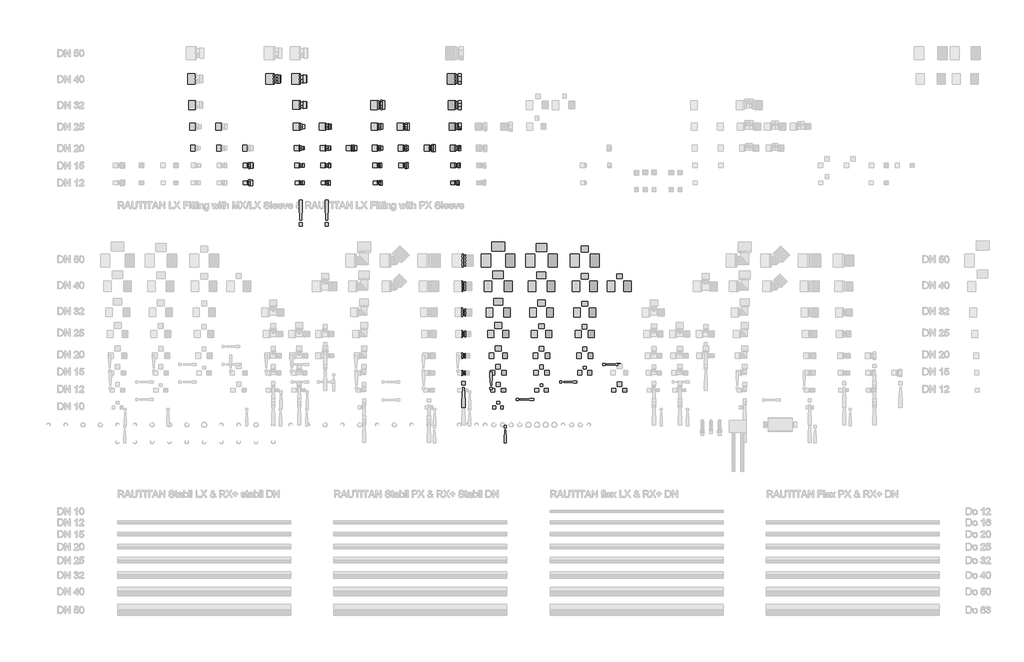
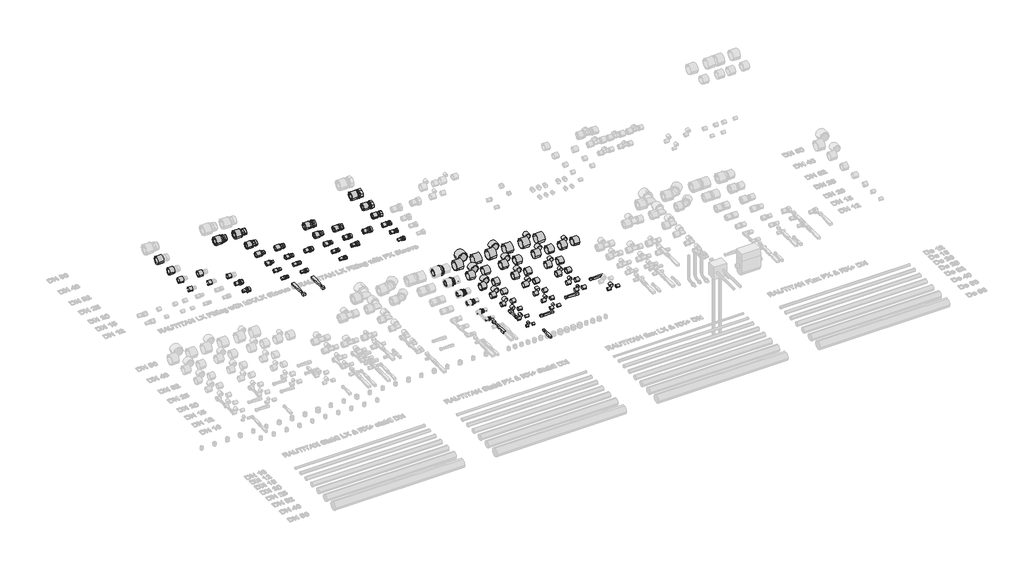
# One storey, part 4 of 18: 140 pipe fittings.
"""IFC4 building model written with IfcOpenShell, lengths in millimetres."""

from ifc_helpers import new_model, si_unit, origin, place, context, project, spatial, transform, mapped, element, save
from components import pipe_fitting_fd7b57f7, pipe_fitting_021c3694, pipe_fitting_38a4c61e, pipe_fitting_724b9a9d, dn1_749d9a03, pipe_fitting_1876d1a3, dn1_c9c9eba3, dn1_037c3912, pipe_fitting_a8fbe6ac, pipe_fitting_d8f8e9d9, pipe_fitting_02b715f6, pipe_fitting_6fe5a3bb, pipe_fitting_34324f26, pipe_fitting_fd7cd378, pipe_fitting_396ce9a4, pipe_fitting_b5638b35, pipe_fitting_6de9a66a, pipe_fitting_1be4a6b4, pipe_fitting_215c6bd6, pipe_fitting_5de1917f, pipe_fitting_37e15ff8, pipe_fitting_89b5f679, pipe_fitting_5c01712a, pipe_fitting_cb1c4b1c, pipe_fitting_163040be, pipe_fitting_ea2f6d66, pipe_fitting_62e479d9, pipe_fitting_bdaba8f8, pipe_fitting_206183e9, pipe_fitting_cb2531f9, pipe_fitting_3d571746, pipe_fitting_8a4c1e15, pipe_fitting_abff8b8d, pipe_fitting_46779adb, pipe_fitting_c94c5751, pipe_fitting_183dbd39, pipe_fitting_7c315e3e, pipe_fitting_5419b815, pipe_fitting_cf95003e, pipe_fitting_0746f0ab, pipe_fitting_282130cf, pipe_fitting_6357771a, pipe_fitting_1b92578f, pipe_fitting_d834bf19, pipe_fitting_4a6725c8, pipe_fitting_7819bb25, pipe_fitting_efe7aa76, sleeve_lx_7_4_533efbed, pipe_fitting_b25a488c

model = new_model("IFC4")

# Units and contexts
model_context = context("Model", 3, world=origin())
ifc_project = project(units=[si_unit("LENGTHUNIT", "METRE", prefix="MILLI")], contexts=[model_context])

# Site, building, storey
site = spatial("IfcSite", under=ifc_project)
building = spatial("IfcBuilding", under=site)
storey = spatial("IfcBuildingStorey", under=building, Name="REHAU Starting view", Elevation=0.0)

# Pipe fittings
placement = place(None, origin())
pipe_fitting_shape = pipe_fitting_fd7b57f7(model_context)
element("IfcPipeFitting", 1, ObjectType="REHAU_RAUTITAN_Adaptor_RX+, with internal thread : REHAU_RAUTITAN_Adaptor_RX+, with internal thread", at=placement, inside=storey, context=model_context, shape_type="MappedRepresentation", body=[
    mapped(pipe_fitting_shape, transform((1819.16, 1500.0, 0.0), x_axis=(1.0, 0.0, 0.0), y_axis=(0.0, 1.0, 0.0), z_axis=(0.0, 0.0, 1.0))),
])
pipe_fitting_2_shape = pipe_fitting_021c3694(model_context)
element("IfcPipeFitting", 2, ObjectType="REHAU_RAUTITAN_Adaptor_RX+_union nut : REHAU_RAUTITAN_Adaptor_RX+_union nut", at=placement, inside=storey, context=model_context, shape_type="MappedRepresentation", body=[
    mapped(pipe_fitting_2_shape, transform((1963.2, 1750.0, 0.0), x_axis=(1.0, 0.0, 0.0), y_axis=(0.0, 1.0, 0.0), z_axis=(0.0, 0.0, 1.0))),
])
pipe_fitting_3_shape = pipe_fitting_38a4c61e(model_context)
element("IfcPipeFitting", 3, ObjectType="REHAU_RAUTITAN_Adaptor_RX+ stabil, with external thread : REHAU_RAUTITAN_Adaptor_RX+ stabil, with external thread", at=placement, inside=storey, context=model_context, shape_type="MappedRepresentation", body=[
    mapped(pipe_fitting_3_shape, transform((915.6, 1900.0, 0.0), x_axis=(1.0, 0.0, 0.0), y_axis=(0.0, 1.0, 0.0), z_axis=(0.0, 0.0, 1.0))),
])
pipe_fitting_4_shape = pipe_fitting_724b9a9d(model_context)
element("IfcPipeFitting", 4, ObjectType="RAUTITAN_Adapter_external_thread LX+G_LX : RTI A external LX+G_LX DE", at=placement, inside=storey, context=model_context, shape_type="MappedRepresentation", body=[
    mapped(pipe_fitting_4_shape, transform((1053.33, 1400.0, 0.0), x_axis=(1.0, 0.0, 0.0), y_axis=(0.0, 1.0, 0.0), z_axis=(0.0, 0.0, 1.0))),
])
dn1_shape = dn1_749d9a03(model_context)
element("IfcPipeFitting", 5, ObjectType="RAUTITAN_Sleeve PX2 : RTI S PX 2", at=placement, inside=storey, context=model_context, shape_type="MappedRepresentation", body=[
    mapped(dn1_shape, transform((750.0, 1400.0, 0.0), x_axis=(-1.0, 0.0, 0.0), y_axis=(0.0, -1.0, 0.0), z_axis=(0.0, 0.0, 1.0))),
])
pipe_fitting_5_shape = pipe_fitting_1876d1a3(model_context)
element("IfcPipeFitting", 6, ObjectType="RAUTITAN_Sleeve SDR 7,1 : RTI S SDR 7,4", at=placement, inside=storey, context=model_context, shape_type="MappedRepresentation", body=[
    mapped(pipe_fitting_5_shape, transform((1050.0, 1625.0, 0.0), x_axis=(-1.0, 0.0, 0.0), y_axis=(0.0, -1.0, 0.0), z_axis=(0.0, 0.0, 1.0))),
])
element("IfcPipeFitting", 7, ObjectType="RAUTITAN_Sleeve SDR 7,1 : RTI S SDR 7,4", at=placement, inside=storey, context=model_context, shape_type="MappedRepresentation", body=[
    mapped(pipe_fitting_5_shape, transform((1200.0, 1625.0, 0.0), x_axis=(-1.0, 0.0, 0.0), y_axis=(0.0, -1.0, 0.0), z_axis=(0.0, 0.0, 1.0))),
])
dn1_2_shape = dn1_c9c9eba3(model_context)
element("IfcPipeFitting", 8, ObjectType="RAUTITAN_Sleeve PX2 : RTI S PX 2", at=placement, inside=storey, context=model_context, shape_type="MappedRepresentation", body=[
    mapped(dn1_2_shape, transform((750.0, 1300.0, 0.0), x_axis=(-1.0, 0.0, 0.0), y_axis=(0.0, -1.0, 0.0), z_axis=(0.0, 0.0, 1.0))),
])
dn1_3_shape = dn1_037c3912(model_context)
element("IfcPipeFitting", 9, ObjectType="RAUTITAN_Sleeve PX2 : RTI S PX 2", at=placement, inside=storey, context=model_context, shape_type="MappedRepresentation", body=[
    mapped(dn1_3_shape, transform((450.0, 1500.0, 0.0), x_axis=(-1.0, 0.0, 0.0), y_axis=(0.0, -1.0, 0.0), z_axis=(0.0, 0.0, 1.0))),
])
element("IfcPipeFitting", 10, ObjectType="RAUTITAN_Sleeve PX2 : RTI S PX 2", at=placement, inside=storey, context=model_context, shape_type="MappedRepresentation", body=[
    mapped(dn1_3_shape, transform((600.0, 1500.0, 0.0), x_axis=(-1.0, 0.0, 0.0), y_axis=(0.0, -1.0, 0.0), z_axis=(0.0, 0.0, 1.0))),
])
element("IfcPipeFitting", 11, ObjectType="RAUTITAN_Sleeve PX2 : RTI S PX 2", at=placement, inside=storey, context=model_context, shape_type="MappedRepresentation", body=[
    mapped(dn1_3_shape, transform((750.0, 1500.0, 0.0), x_axis=(-1.0, 0.0, 0.0), y_axis=(0.0, -1.0, 0.0), z_axis=(0.0, 0.0, 1.0))),
])
pipe_fitting_6_shape = pipe_fitting_a8fbe6ac(model_context)
element("IfcPipeFitting", 12, ObjectType="RAUTITAN_Sleeve PX2 : RTI S PX 2", at=placement, inside=storey, context=model_context, shape_type="MappedRepresentation", body=[
    mapped(pipe_fitting_6_shape, transform((450.0, 1625.0, 0.0), x_axis=(-1.0, 0.0, 0.0), y_axis=(0.0, -1.0, 0.0), z_axis=(0.0, 0.0, 1.0))),
])
element("IfcPipeFitting", 13, ObjectType="RAUTITAN_Sleeve PX2 : RTI S PX 2", at=placement, inside=storey, context=model_context, shape_type="MappedRepresentation", body=[
    mapped(pipe_fitting_6_shape, transform((600.0, 1625.0, 0.0), x_axis=(-1.0, 0.0, 0.0), y_axis=(0.0, -1.0, 0.0), z_axis=(0.0, 0.0, 1.0))),
])
pipe_fitting_7_shape = pipe_fitting_d8f8e9d9(model_context)
element("IfcPipeFitting", 14, ObjectType="RAUTITAN_Sleeve PX2 : RTI S PX 2", at=placement, inside=storey, context=model_context, shape_type="MappedRepresentation", body=[
    mapped(pipe_fitting_7_shape, transform((450.0, 1750.0, 0.0), x_axis=(-1.0, 0.0, 0.0), y_axis=(0.0, -1.0, 0.0), z_axis=(0.0, 0.0, 1.0))),
])
pipe_fitting_8_shape = pipe_fitting_02b715f6(model_context)
element("IfcPipeFitting", 15, ObjectType="RAUTITAN_Sleeve PX2 : RTI S PX 2", at=placement, inside=storey, context=model_context, shape_type="MappedRepresentation", body=[
    mapped(pipe_fitting_8_shape, transform((450.0, 1900.0, 0.0), x_axis=(-1.0, 0.0, 0.0), y_axis=(0.0, -1.0, 0.0), z_axis=(0.0, 0.0, 1.0))),
])
pipe_fitting_9_shape = pipe_fitting_6fe5a3bb(model_context)
element("IfcPipeFitting", 16, ObjectType="RAUTITAN_Sleeve SDR 7,1 : RTI S SDR 7,4", at=placement, inside=storey, context=model_context, shape_type="MappedRepresentation", body=[
    mapped(pipe_fitting_9_shape, transform((1050.0, 1400.0, 0.0), x_axis=(-1.0, 0.0, 0.0), y_axis=(0.0, -1.0, 0.0), z_axis=(0.0, 0.0, 1.0))),
])
element("IfcPipeFitting", 17, ObjectType="RAUTITAN_Sleeve SDR 7,1 : RTI S SDR 7,4", at=placement, inside=storey, context=model_context, shape_type="MappedRepresentation", body=[
    mapped(pipe_fitting_9_shape, transform((1200.0, 1400.0, 0.0), x_axis=(-1.0, 0.0, 0.0), y_axis=(0.0, -1.0, 0.0), z_axis=(0.0, 0.0, 1.0))),
])
pipe_fitting_10_shape = pipe_fitting_34324f26(model_context)
element("IfcPipeFitting", 18, ObjectType="RAUTITAN_Adapter_external_thread LX+G_LX : RTI A external LX+G_LX DE", at=placement, inside=storey, context=model_context, shape_type="MappedRepresentation", body=[
    mapped(pipe_fitting_10_shape, transform((1203.35, 1400.0, 0.0), x_axis=(1.0, 0.0, 0.0), y_axis=(0.0, 1.0, 0.0), z_axis=(0.0, 0.0, 1.0))),
])
pipe_fitting_11_shape = pipe_fitting_fd7cd378(model_context)
element("IfcPipeFitting", 19, ObjectType="RAUTITAN_Adapter_external_thread LX+G_LX : RTI A external LX+G_LX DE", at=placement, inside=storey, context=model_context, shape_type="MappedRepresentation", body=[
    mapped(pipe_fitting_11_shape, transform((1053.54, 1500.0, 0.0), x_axis=(1.0, 0.0, 0.0), y_axis=(0.0, 1.0, 0.0), z_axis=(0.0, 0.0, 1.0))),
])
pipe_fitting_12_shape = pipe_fitting_396ce9a4(model_context)
element("IfcPipeFitting", 20, ObjectType="RAUTITAN_Sleeve SDR 7,1 : RTI S SDR 7,4", at=placement, inside=storey, context=model_context, shape_type="MappedRepresentation", body=[
    mapped(pipe_fitting_12_shape, transform((1050.0, 1500.0, 0.0), x_axis=(-1.0, 0.0, 0.0), y_axis=(0.0, -1.0, 0.0), z_axis=(0.0, 0.0, 1.0))),
])
element("IfcPipeFitting", 21, ObjectType="RAUTITAN_Sleeve SDR 7,1 : RTI S SDR 7,4", at=placement, inside=storey, context=model_context, shape_type="MappedRepresentation", body=[
    mapped(pipe_fitting_12_shape, transform((1200.0, 1500.0, 0.0), x_axis=(-1.0, 0.0, 0.0), y_axis=(0.0, -1.0, 0.0), z_axis=(0.0, 0.0, 1.0))),
])
element("IfcPipeFitting", 22, ObjectType="RAUTITAN_Sleeve SDR 7,1 : RTI S SDR 7,4", at=placement, inside=storey, context=model_context, shape_type="MappedRepresentation", body=[
    mapped(pipe_fitting_12_shape, transform((1350.0, 1500.0, 0.0), x_axis=(-1.0, 0.0, 0.0), y_axis=(0.0, -1.0, 0.0), z_axis=(0.0, 0.0, 1.0))),
])
pipe_fitting_13_shape = pipe_fitting_b5638b35(model_context)
element("IfcPipeFitting", 23, ObjectType="RAUTITAN_Adapter_external_thread LX+G_LX : RTI A external LX+G_LX DE", at=placement, inside=storey, context=model_context, shape_type="MappedRepresentation", body=[
    mapped(pipe_fitting_13_shape, transform((1203.54, 1500.0, 0.0), x_axis=(1.0, 0.0, 0.0), y_axis=(0.0, 1.0, 0.0), z_axis=(0.0, 0.0, 1.0))),
])
pipe_fitting_14_shape = pipe_fitting_6de9a66a(model_context)
element("IfcPipeFitting", 24, ObjectType="RAUTITAN_Adapter_external_thread LX+G_LX : RTI A external LX+G_LX DE", at=placement, inside=storey, context=model_context, shape_type="MappedRepresentation", body=[
    mapped(pipe_fitting_14_shape, transform((1359.72, 1500.0, 0.0), x_axis=(1.0, 0.0, 0.0), y_axis=(0.0, 1.0, 0.0), z_axis=(0.0, 0.0, 1.0))),
])
pipe_fitting_15_shape = pipe_fitting_1be4a6b4(model_context)
element("IfcPipeFitting", 25, ObjectType="RAUTITAN_Adapter_external_thread LX+G_LX : RTI A external LX+G_LX DE", at=placement, inside=storey, context=model_context, shape_type="MappedRepresentation", body=[
    mapped(pipe_fitting_15_shape, transform((1054.33, 1625.0, 0.0), x_axis=(1.0, 0.0, 0.0), y_axis=(0.0, 1.0, 0.0), z_axis=(0.0, 0.0, 1.0))),
])
pipe_fitting_16_shape = pipe_fitting_215c6bd6(model_context)
element("IfcPipeFitting", 26, ObjectType="RAUTITAN_Adapter_external_thread LX+G_LX : RTI A external LX+G_LX DE", at=placement, inside=storey, context=model_context, shape_type="MappedRepresentation", body=[
    mapped(pipe_fitting_16_shape, transform((1204.33, 1625.0, 0.0), x_axis=(1.0, 0.0, 0.0), y_axis=(0.0, 1.0, 0.0), z_axis=(0.0, 0.0, 1.0))),
])
pipe_fitting_17_shape = pipe_fitting_5de1917f(model_context)
element("IfcPipeFitting", 27, ObjectType="RAUTITAN_Adapter_external_thread LX+G_LX : RTI A external LX+G_LX DE", at=placement, inside=storey, context=model_context, shape_type="MappedRepresentation", body=[
    mapped(pipe_fitting_17_shape, transform((1055.5, 1750.0, 0.0), x_axis=(1.0, 0.0, 0.0), y_axis=(0.0, 1.0, 0.0), z_axis=(0.0, 0.0, 1.0))),
])
pipe_fitting_18_shape = pipe_fitting_37e15ff8(model_context)
element("IfcPipeFitting", 28, ObjectType="RAUTITAN_Sleeve SDR 7,1 : RTI S SDR 7,4", at=placement, inside=storey, context=model_context, shape_type="MappedRepresentation", body=[
    mapped(pipe_fitting_18_shape, transform((1050.0, 1750.0, 0.0), x_axis=(-1.0, 0.0, 0.0), y_axis=(0.0, -1.0, 0.0), z_axis=(0.0, 0.0, 1.0))),
])
pipe_fitting_19_shape = pipe_fitting_89b5f679(model_context)
element("IfcPipeFitting", 29, ObjectType="RAUTITAN_Adapter_external_thread LX+G_LX : RTI A external LX+G_LX DE", at=placement, inside=storey, context=model_context, shape_type="MappedRepresentation", body=[
    mapped(pipe_fitting_19_shape, transform((1055.25, 1900.0, 0.0), x_axis=(1.0, 0.0, 0.0), y_axis=(0.0, 1.0, 0.0), z_axis=(0.0, 0.0, 1.0))),
])
pipe_fitting_20_shape = pipe_fitting_5c01712a(model_context)
element("IfcPipeFitting", 30, ObjectType="RAUTITAN_Sleeve SDR 7,1 : RTI S SDR 7,4", at=placement, inside=storey, context=model_context, shape_type="MappedRepresentation", body=[
    mapped(pipe_fitting_20_shape, transform((1050.0, 1900.0, 0.0), x_axis=(-1.0, 0.0, 0.0), y_axis=(0.0, -1.0, 0.0), z_axis=(0.0, 0.0, 1.0))),
])
pipe_fitting_21_shape = pipe_fitting_cb1c4b1c(model_context)
element("IfcPipeFitting", 31, ObjectType="REHAU_RAUTITAN_Adaptor_RX+, with internal thread : REHAU_RAUTITAN_Adaptor_RX+, with internal thread", at=placement, inside=storey, context=model_context, shape_type="MappedRepresentation", body=[
    mapped(pipe_fitting_21_shape, transform((1515.99, 1300.0, 0.0), x_axis=(1.0, 0.0, 0.0), y_axis=(0.0, 1.0, 0.0), z_axis=(0.0, 0.0, 1.0))),
])
pipe_fitting_22_shape = pipe_fitting_163040be(model_context)
element("IfcPipeFitting", 32, ObjectType="REHAU_RAUTITAN_Adaptor_RX+, with internal thread : REHAU_RAUTITAN_Adaptor_RX+, with internal thread", at=placement, inside=storey, context=model_context, shape_type="MappedRepresentation", body=[
    mapped(pipe_fitting_22_shape, transform((1515.19, 1400.0, 0.0), x_axis=(1.0, 0.0, 0.0), y_axis=(0.0, 1.0, 0.0), z_axis=(0.0, 0.0, 1.0))),
])
pipe_fitting_23_shape = pipe_fitting_ea2f6d66(model_context)
element("IfcPipeFitting", 33, ObjectType="REHAU_RAUTITAN_Adaptor_RX+, with internal thread : REHAU_RAUTITAN_Adaptor_RX+, with internal thread", at=placement, inside=storey, context=model_context, shape_type="MappedRepresentation", body=[
    mapped(pipe_fitting_23_shape, transform((1667.6, 1400.0, 0.0), x_axis=(1.0, 0.0, 0.0), y_axis=(0.0, 1.0, 0.0), z_axis=(0.0, 0.0, 1.0))),
])
pipe_fitting_24_shape = pipe_fitting_62e479d9(model_context)
element("IfcPipeFitting", 34, ObjectType="REHAU_RAUTITAN_Adaptor_RX+, with internal thread : REHAU_RAUTITAN_Adaptor_RX+, with internal thread", at=placement, inside=storey, context=model_context, shape_type="MappedRepresentation", body=[
    mapped(pipe_fitting_24_shape, transform((1517.57, 1500.0, 0.0), x_axis=(1.0, 0.0, 0.0), y_axis=(0.0, 1.0, 0.0), z_axis=(0.0, 0.0, 1.0))),
])
pipe_fitting_25_shape = pipe_fitting_bdaba8f8(model_context)
element("IfcPipeFitting", 35, ObjectType="REHAU_RAUTITAN_Adaptor_RX+, with internal thread : REHAU_RAUTITAN_Adaptor_RX+, with internal thread", at=placement, inside=storey, context=model_context, shape_type="MappedRepresentation", body=[
    mapped(pipe_fitting_25_shape, transform((1666.58, 1500.0, 0.0), x_axis=(1.0, 0.0, 0.0), y_axis=(0.0, 1.0, 0.0), z_axis=(0.0, 0.0, 1.0))),
])
pipe_fitting_26_shape = pipe_fitting_206183e9(model_context)
element("IfcPipeFitting", 36, ObjectType="REHAU_RAUTITAN_Adaptor_RX+, with internal thread : REHAU_RAUTITAN_Adaptor_RX+, with internal thread", at=placement, inside=storey, context=model_context, shape_type="MappedRepresentation", body=[
    mapped(pipe_fitting_26_shape, transform((1516.36, 1625.0, 0.0), x_axis=(1.0, 0.0, 0.0), y_axis=(0.0, 1.0, 0.0), z_axis=(0.0, 0.0, 1.0))),
])
pipe_fitting_27_shape = pipe_fitting_cb2531f9(model_context)
element("IfcPipeFitting", 37, ObjectType="REHAU_RAUTITAN_Adaptor_RX+, with internal thread : REHAU_RAUTITAN_Adaptor_RX+, with internal thread", at=placement, inside=storey, context=model_context, shape_type="MappedRepresentation", body=[
    mapped(pipe_fitting_27_shape, transform((1668.94, 1625.0, 0.0), x_axis=(1.0, 0.0, 0.0), y_axis=(0.0, 1.0, 0.0), z_axis=(0.0, 0.0, 1.0))),
])
pipe_fitting_28_shape = pipe_fitting_3d571746(model_context)
element("IfcPipeFitting", 38, ObjectType="REHAU_RAUTITAN_Adaptor_RX+, with internal thread : REHAU_RAUTITAN_Adaptor_RX+, with internal thread", at=placement, inside=storey, context=model_context, shape_type="MappedRepresentation", body=[
    mapped(pipe_fitting_28_shape, transform((1524.98, 1750.0, 0.0), x_axis=(1.0, 0.0, 0.0), y_axis=(0.0, 1.0, 0.0), z_axis=(0.0, 0.0, 1.0))),
])
pipe_fitting_29_shape = pipe_fitting_8a4c1e15(model_context)
element("IfcPipeFitting", 39, ObjectType="REHAU_RAUTITAN_Adaptor_RX+_union nut : REHAU_RAUTITAN_Adaptor_RX+_union nut", at=placement, inside=storey, context=model_context, shape_type="MappedRepresentation", body=[
    mapped(pipe_fitting_29_shape, transform((1958.0, 1300.0, 0.0), x_axis=(1.0, 0.0, 0.0), y_axis=(0.0, 1.0, 0.0), z_axis=(0.0, 0.0, 1.0))),
])
pipe_fitting_30_shape = pipe_fitting_abff8b8d(model_context)
element("IfcPipeFitting", 40, ObjectType="REHAU_RAUTITAN_Adaptor_RX+_union nut : REHAU_RAUTITAN_Adaptor_RX+_union nut", at=placement, inside=storey, context=model_context, shape_type="MappedRepresentation", body=[
    mapped(pipe_fitting_30_shape, transform((1961.09, 1400.0, 0.0), x_axis=(1.0, 0.0, 0.0), y_axis=(0.0, 1.0, 0.0), z_axis=(0.0, 0.0, 1.0))),
])
pipe_fitting_31_shape = pipe_fitting_46779adb(model_context)
element("IfcPipeFitting", 41, ObjectType="REHAU_RAUTITAN_Adaptor_RX+_union nut : REHAU_RAUTITAN_Adaptor_RX+_union nut", at=placement, inside=storey, context=model_context, shape_type="MappedRepresentation", body=[
    mapped(pipe_fitting_31_shape, transform((1962.35, 1500.0, 0.0), x_axis=(1.0, 0.0, 0.0), y_axis=(0.0, 1.0, 0.0), z_axis=(0.0, 0.0, 1.0))),
])
pipe_fitting_32_shape = pipe_fitting_c94c5751(model_context)
element("IfcPipeFitting", 42, ObjectType="REHAU_RAUTITAN_Adaptor_RX+_union nut : REHAU_RAUTITAN_Adaptor_RX+_union nut", at=placement, inside=storey, context=model_context, shape_type="MappedRepresentation", body=[
    mapped(pipe_fitting_32_shape, transform((1962.0, 1625.0, 0.0), x_axis=(1.0, 0.0, 0.0), y_axis=(0.0, 1.0, 0.0), z_axis=(0.0, 0.0, 1.0))),
])
pipe_fitting_33_shape = pipe_fitting_183dbd39(model_context)
element("IfcPipeFitting", 43, ObjectType="REHAU_RAUTITAN_Adaptor_RX+_union nut : REHAU_RAUTITAN_Adaptor_RX+_union nut", at=placement, inside=storey, context=model_context, shape_type="MappedRepresentation", body=[
    mapped(pipe_fitting_33_shape, transform((1963.0, 1900.0, 0.0), x_axis=(1.0, 0.0, 0.0), y_axis=(0.0, 1.0, 0.0), z_axis=(0.0, 0.0, 1.0))),
])
pipe_fitting_34_shape = pipe_fitting_7c315e3e(model_context)
element("IfcPipeFitting", 44, ObjectType="RAUTITAN_Adapter_external_thread : RTI A external DE", at=placement, inside=storey, context=model_context, shape_type="MappedRepresentation", body=[
    mapped(pipe_fitting_34_shape, transform((758.97, 1300.0, 0.0), x_axis=(1.0, 0.0, 0.0), y_axis=(0.0, 1.0, 0.0), z_axis=(0.0, 0.0, 1.0))),
])
pipe_fitting_35_shape = pipe_fitting_5419b815(model_context)
element("IfcPipeFitting", 45, ObjectType="RAUTITAN_Adapter_external_thread : RTI A external DE", at=placement, inside=storey, context=model_context, shape_type="MappedRepresentation", body=[
    mapped(pipe_fitting_35_shape, transform((759.44, 1400.0, 0.0), x_axis=(1.0, 0.0, 0.0), y_axis=(0.0, 1.0, 0.0), z_axis=(0.0, 0.0, 1.0))),
])
pipe_fitting_36_shape = pipe_fitting_cf95003e(model_context)
element("IfcPipeFitting", 46, ObjectType="RAUTITAN_Adapter_external_thread LX+G_LX : RTI A external LX+G_LX DE", at=placement, inside=storey, context=model_context, shape_type="MappedRepresentation", body=[
    mapped(pipe_fitting_36_shape, transform((1058.97, 1300.0, 0.0), x_axis=(1.0, 0.0, 0.0), y_axis=(0.0, 1.0, 0.0), z_axis=(0.0, 0.0, 1.0))),
])
pipe_fitting_37_shape = pipe_fitting_0746f0ab(model_context)
element("IfcPipeFitting", 47, ObjectType="RAUTITAN_Sleeve SDR 7,1 : RTI S SDR 7,4", at=placement, inside=storey, context=model_context, shape_type="MappedRepresentation", body=[
    mapped(pipe_fitting_37_shape, transform((1050.0, 1300.0, 0.0), x_axis=(-1.0, 0.0, 0.0), y_axis=(0.0, -1.0, 0.0), z_axis=(0.0, 0.0, 1.0))),
])
element("IfcPipeFitting", 48, ObjectType="RAUTITAN_Sleeve SDR 7,1 : RTI S SDR 7,4", at=placement, inside=storey, context=model_context, shape_type="MappedRepresentation", body=[
    mapped(pipe_fitting_37_shape, transform((1200.0, 1300.0, 0.0), x_axis=(-1.0, 0.0, 0.0), y_axis=(0.0, -1.0, 0.0), z_axis=(0.0, 0.0, 1.0))),
])
pipe_fitting_38_shape = pipe_fitting_282130cf(model_context)
element("IfcPipeFitting", 49, ObjectType="RAUTITAN_Adapter_external_thread LX+G_LX : RTI A external LX+G_LX DE", at=placement, inside=storey, context=model_context, shape_type="MappedRepresentation", body=[
    mapped(pipe_fitting_38_shape, transform((1208.97, 1300.0, 0.0), x_axis=(1.0, 0.0, 0.0), y_axis=(0.0, 1.0, 0.0), z_axis=(0.0, 0.0, 1.0))),
])
pipe_fitting_39_shape = pipe_fitting_6357771a(model_context)
element("IfcPipeFitting", 50, ObjectType="RAUTITAN_Transition_LX : RTI LX Tr DN", at=placement, inside=storey, context=model_context, shape_type="MappedRepresentation", body=[
    mapped(pipe_fitting_39_shape, transform((2000.0, 700.0, 0.0), x_axis=(1.0, 0.0, 0.0), y_axis=(0.0, 1.0, 0.0), z_axis=(0.0, 0.0, 1.0))),
])
pipe_fitting_40_shape = pipe_fitting_1b92578f(model_context)
element("IfcPipeFitting", 51, ObjectType="RAUTITAN_Transition_LX : RTI LX Tr DN", at=placement, inside=storey, context=model_context, shape_type="MappedRepresentation", body=[
    mapped(pipe_fitting_40_shape, transform((2000.0, 850.0, 0.0), x_axis=(1.0, 0.0, 0.0), y_axis=(0.0, 1.0, 0.0), z_axis=(0.0, 0.0, 1.0))),
])
pipe_fitting_41_shape = pipe_fitting_d834bf19(model_context)
element("IfcPipeFitting", 52, ObjectType="RAUTITAN_Transition_LX : RTI LX Tr DN", at=placement, inside=storey, context=model_context, shape_type="MappedRepresentation", body=[
    mapped(pipe_fitting_41_shape, transform((2000.0, 425.0, 0.0), x_axis=(1.0, 0.0, 0.0), y_axis=(0.0, 1.0, 0.0), z_axis=(0.0, 0.0, 1.0))),
])
pipe_fitting_42_shape = pipe_fitting_4a6725c8(model_context)
element("IfcPipeFitting", 53, ObjectType="RAUTITAN_Transition_LX : RTI LX Tr DN", at=placement, inside=storey, context=model_context, shape_type="MappedRepresentation", body=[
    mapped(pipe_fitting_42_shape, transform((2000.0, 300.0, 0.0), x_axis=(1.0, 0.0, 0.0), y_axis=(0.0, 1.0, 0.0), z_axis=(0.0, 0.0, 1.0))),
])
pipe_fitting_43_shape = pipe_fitting_7819bb25(model_context)
element("IfcPipeFitting", 54, ObjectType="RAUTITAN_Transition_LX : RTI LX Tr DN", at=placement, inside=storey, context=model_context, shape_type="MappedRepresentation", body=[
    mapped(pipe_fitting_43_shape, transform((2000.0, 200.0, 0.0), x_axis=(1.0, 0.0, 0.0), y_axis=(0.0, 1.0, 0.0), z_axis=(0.0, 0.0, 1.0))),
])
pipe_fitting_44_shape = pipe_fitting_efe7aa76(model_context)
element("IfcPipeFitting", 55, ObjectType="RAUTITAN_Transition_LX : RTI LX Tr DN", at=placement, inside=storey, context=model_context, shape_type="MappedRepresentation", body=[
    mapped(pipe_fitting_44_shape, transform((2000.0, 550.0, 0.0), x_axis=(1.0, 0.0, 0.0), y_axis=(0.0, 1.0, 0.0), z_axis=(0.0, 0.0, 1.0))),
])
sleeve_lx_7_4_shape = sleeve_lx_7_4_533efbed(model_context)
element("IfcPipeFitting", 56, ObjectType="Sleeve : LX 7,4", at=placement, inside=storey, context=model_context, shape_type="MappedRepresentation", body=[
    mapped(sleeve_lx_7_4_shape, transform((2184.5, 0.0, 0.0), x_axis=(-1.0, 0.0, 0.0), y_axis=(0.0, -1.0, 0.0), z_axis=(0.0, 0.0, 1.0))),
])
element("IfcPipeFitting", 57, ObjectType="Sleeve : LX 7,4", at=placement, inside=storey, context=model_context, shape_type="MappedRepresentation", body=[
    mapped(sleeve_lx_7_4_shape, transform((2200.0, 20.0, 0.0), x_axis=(0.0, 1.0, 0.0), y_axis=(-1.0, 0.0, 0.0), z_axis=(0.0, 0.0, 1.0))),
])
element("IfcPipeFitting", 58, ObjectType="Sleeve : LX 7,4", at=placement, inside=storey, context=model_context, shape_type="MappedRepresentation", body=[
    mapped(sleeve_lx_7_4_shape, transform((2215.5, 0.0, 0.0), x_axis=(1.0, 0.0, 0.0), y_axis=(0.0, 1.0, 0.0), z_axis=(0.0, 0.0, 1.0))),
])
element("IfcPipeFitting", 59, ObjectType="Sleeve : LX 7,4", at=placement, inside=storey, context=model_context, shape_type="MappedRepresentation", body=[
    mapped(sleeve_lx_7_4_shape, transform((2450.0, 122.0, 0.0), x_axis=(0.0, 1.0, 0.0), y_axis=(-1.0, 0.0, 0.0), z_axis=(0.0, 0.0, 1.0))),
])
element("IfcPipeFitting", 60, ObjectType="Sleeve : LX 7,4", at=placement, inside=storey, context=model_context, shape_type="MappedRepresentation", body=[
    mapped(sleeve_lx_7_4_shape, transform((2700.0, 223.4, 0.0), x_axis=(0.0, 1.0, 0.0), y_axis=(-1.0, 0.0, 0.0), z_axis=(0.0, 0.0, 1.0))),
])
element("IfcPipeFitting", 61, ObjectType="Sleeve : LX 7,4", at=placement, inside=storey, context=model_context, shape_type="MappedRepresentation", body=[
    mapped(pipe_fitting_20_shape, transform((2164.0, 700.0, 0.0), x_axis=(-1.0, 0.0, 0.0), y_axis=(0.0, -1.0, 0.0), z_axis=(0.0, 0.0, 1.0))),
])
element("IfcPipeFitting", 62, ObjectType="Sleeve : LX 7,4", at=placement, inside=storey, context=model_context, shape_type="MappedRepresentation", body=[
    mapped(pipe_fitting_20_shape, transform((2200.0, 746.0, 0.0), x_axis=(0.0, 1.0, 0.0), y_axis=(-1.0, 0.0, 0.0), z_axis=(0.0, 0.0, 1.0))),
])
element("IfcPipeFitting", 63, ObjectType="Sleeve : LX 7,4", at=placement, inside=storey, context=model_context, shape_type="MappedRepresentation", body=[
    mapped(pipe_fitting_20_shape, transform((2236.0, 700.0, 0.0), x_axis=(1.0, 0.0, 0.0), y_axis=(0.0, 1.0, 0.0), z_axis=(0.0, 0.0, 1.0))),
])
element("IfcPipeFitting", 64, ObjectType="Sleeve : LX 7,4", at=placement, inside=storey, context=model_context, shape_type="MappedRepresentation", body=[
    mapped(pipe_fitting_20_shape, transform((2418.0, 700.0, 0.0), x_axis=(-1.0, 0.0, 0.0), y_axis=(0.0, -1.0, 0.0), z_axis=(0.0, 0.0, 1.0))),
])
element("IfcPipeFitting", 65, ObjectType="Sleeve : LX 7,4", at=placement, inside=storey, context=model_context, shape_type="MappedRepresentation", body=[
    mapped(pipe_fitting_20_shape, transform((2482.0, 700.0, 0.0), x_axis=(1.0, 0.0, 0.0), y_axis=(0.0, 1.0, 0.0), z_axis=(0.0, 0.0, 1.0))),
])
element("IfcPipeFitting", 66, ObjectType="Sleeve : LX 7,4", at=placement, inside=storey, context=model_context, shape_type="MappedRepresentation", body=[
    mapped(pipe_fitting_20_shape, transform((2450.0, 903.0, 0.0), x_axis=(0.0, 1.0, 0.0), y_axis=(-1.0, 0.0, 0.0), z_axis=(0.0, 0.0, 1.0))),
])
element("IfcPipeFitting", 67, ObjectType="Sleeve : LX 7,4", at=placement, inside=storey, context=model_context, shape_type="MappedRepresentation", body=[
    mapped(pipe_fitting_20_shape, transform((2670.5, 700.0, 0.0), x_axis=(-1.0, 0.0, 0.0), y_axis=(0.0, -1.0, 0.0), z_axis=(0.0, 0.0, 1.0))),
])
element("IfcPipeFitting", 68, ObjectType="Sleeve : LX 7,4", at=placement, inside=storey, context=model_context, shape_type="MappedRepresentation", body=[
    mapped(pipe_fitting_20_shape, transform((2729.5, 700.0, 0.0), x_axis=(1.0, 0.0, 0.0), y_axis=(0.0, 1.0, 0.0), z_axis=(0.0, 0.0, 1.0))),
])
element("IfcPipeFitting", 69, ObjectType="Sleeve : LX 7,4", at=placement, inside=storey, context=model_context, shape_type="MappedRepresentation", body=[
    mapped(pipe_fitting_20_shape, transform((2874.0, 700.0, 0.0), x_axis=(-1.0, 0.0, 0.0), y_axis=(0.0, -1.0, 0.0), z_axis=(0.0, 0.0, 1.0))),
])
element("IfcPipeFitting", 70, ObjectType="Sleeve : LX 7,4", at=placement, inside=storey, context=model_context, shape_type="MappedRepresentation", body=[
    mapped(pipe_fitting_20_shape, transform((2926.0, 700.0, 0.0), x_axis=(1.0, 0.0, 0.0), y_axis=(0.0, 1.0, 0.0), z_axis=(0.0, 0.0, 1.0))),
])
pipe_fitting_45_shape = pipe_fitting_b25a488c(model_context)
element("IfcPipeFitting", 71, ObjectType="Sleeve : LX 7,4", at=placement, inside=storey, context=model_context, shape_type="MappedRepresentation", body=[
    mapped(pipe_fitting_45_shape, transform((2156.0, 850.0, 0.0), x_axis=(-1.0, 0.0, 0.0), y_axis=(0.0, -1.0, 0.0), z_axis=(0.0, 0.0, 1.0))),
])
element("IfcPipeFitting", 72, ObjectType="Sleeve : LX 7,4", at=placement, inside=storey, context=model_context, shape_type="MappedRepresentation", body=[
    mapped(pipe_fitting_45_shape, transform((2200.0, 904.5, 0.0), x_axis=(0.0, 1.0, 0.0), y_axis=(-1.0, 0.0, 0.0), z_axis=(0.0, 0.0, 1.0))),
])
element("IfcPipeFitting", 73, ObjectType="Sleeve : LX 7,4", at=placement, inside=storey, context=model_context, shape_type="MappedRepresentation", body=[
    mapped(pipe_fitting_45_shape, transform((2244.0, 850.0, 0.0), x_axis=(1.0, 0.0, 0.0), y_axis=(0.0, 1.0, 0.0), z_axis=(0.0, 0.0, 1.0))),
])
element("IfcPipeFitting", 74, ObjectType="Sleeve : LX 7,4", at=placement, inside=storey, context=model_context, shape_type="MappedRepresentation", body=[
    mapped(pipe_fitting_45_shape, transform((2411.7, 850.0, 0.0), x_axis=(-1.0, 0.0, 0.0), y_axis=(0.0, -1.0, 0.0), z_axis=(0.0, 0.0, 1.0))),
])
element("IfcPipeFitting", 75, ObjectType="Sleeve : LX 7,4", at=placement, inside=storey, context=model_context, shape_type="MappedRepresentation", body=[
    mapped(pipe_fitting_45_shape, transform((2488.3, 850.0, 0.0), x_axis=(1.0, 0.0, 0.0), y_axis=(0.0, 1.0, 0.0), z_axis=(0.0, 0.0, 1.0))),
])
element("IfcPipeFitting", 76, ObjectType="Sleeve : LX 7,4", at=placement, inside=storey, context=model_context, shape_type="MappedRepresentation", body=[
    mapped(pipe_fitting_45_shape, transform((2669.0, 850.0, 0.0), x_axis=(-1.0, 0.0, 0.0), y_axis=(0.0, -1.0, 0.0), z_axis=(0.0, 0.0, 1.0))),
])
element("IfcPipeFitting", 77, ObjectType="Sleeve : LX 7,4", at=placement, inside=storey, context=model_context, shape_type="MappedRepresentation", body=[
    mapped(pipe_fitting_45_shape, transform((2731.0, 850.0, 0.0), x_axis=(1.0, 0.0, 0.0), y_axis=(0.0, 1.0, 0.0), z_axis=(0.0, 0.0, 1.0))),
])
element("IfcPipeFitting", 78, ObjectType="Sleeve : PX 7,4", at=placement, inside=storey, context=model_context, shape_type="MappedRepresentation", body=[
    mapped(dn1_2_shape, transform((2181.4, 100.0, 0.0), x_axis=(-1.0, 0.0, 0.0), y_axis=(0.0, -1.0, 0.0), z_axis=(0.0, 0.0, 1.0))),
])
element("IfcPipeFitting", 79, ObjectType="Sleeve : PX 7,4", at=placement, inside=storey, context=model_context, shape_type="MappedRepresentation", body=[
    mapped(dn1_2_shape, transform((2200.0, 122.3, 0.0), x_axis=(0.0, 1.0, 0.0), y_axis=(-1.0, 0.0, 0.0), z_axis=(0.0, 0.0, 1.0))),
])
element("IfcPipeFitting", 80, ObjectType="Sleeve : PX 7,4", at=placement, inside=storey, context=model_context, shape_type="MappedRepresentation", body=[
    mapped(dn1_2_shape, transform((2218.6, 100.0, 0.0), x_axis=(1.0, 0.0, 0.0), y_axis=(0.0, 1.0, 0.0), z_axis=(0.0, 0.0, 1.0))),
])
element("IfcPipeFitting", 81, ObjectType="Sleeve : PX 7,4", at=placement, inside=storey, context=model_context, shape_type="MappedRepresentation", body=[
    mapped(dn1_2_shape, transform((2434.4, 100.0, 0.0), x_axis=(-1.0, 0.0, 0.0), y_axis=(0.0, -1.0, 0.0), z_axis=(0.0, 0.0, 1.0))),
])
element("IfcPipeFitting", 82, ObjectType="Sleeve : PX 7,4", at=placement, inside=storey, context=model_context, shape_type="MappedRepresentation", body=[
    mapped(dn1_2_shape, transform((2465.6, 100.0, 0.0), x_axis=(1.0, 0.0, 0.0), y_axis=(0.0, 1.0, 0.0), z_axis=(0.0, 0.0, 1.0))),
])
element("IfcPipeFitting", 83, ObjectType="Sleeve : PX 7,4", at=placement, inside=storey, context=model_context, shape_type="MappedRepresentation", body=[
    mapped(dn1_2_shape, transform((2450.0, 223.7, 0.0), x_axis=(0.0, 1.0, 0.0), y_axis=(-1.0, 0.0, 0.0), z_axis=(0.0, 0.0, 1.0))),
])
element("IfcPipeFitting", 84, ObjectType="Sleeve : PX 7,4", at=placement, inside=storey, context=model_context, shape_type="MappedRepresentation", body=[
    mapped(dn1_2_shape, transform((2700.0, 326.7, 0.0), x_axis=(0.0, 1.0, 0.0), y_axis=(-1.0, 0.0, 0.0), z_axis=(0.0, 0.0, 1.0))),
])
element("IfcPipeFitting", 85, ObjectType="Sleeve : PX 7,4", at=placement, inside=storey, context=model_context, shape_type="MappedRepresentation", body=[
    mapped(dn1_2_shape, transform((2879.4, 100.0, 0.0), x_axis=(-1.0, 0.0, 0.0), y_axis=(0.0, -1.0, 0.0), z_axis=(0.0, 0.0, 1.0))),
])
element("IfcPipeFitting", 86, ObjectType="Sleeve : PX 7,4", at=placement, inside=storey, context=model_context, shape_type="MappedRepresentation", body=[
    mapped(dn1_2_shape, transform((2920.6, 100.0, 0.0), x_axis=(1.0, 0.0, 0.0), y_axis=(0.0, 1.0, 0.0), z_axis=(0.0, 0.0, 1.0))),
])
element("IfcPipeFitting", 87, ObjectType="Sleeve : PX 7,4", at=placement, inside=storey, context=model_context, shape_type="MappedRepresentation", body=[
    mapped(dn1_2_shape, transform((1500.0, 1300.0, 0.0), x_axis=(-1.0, 0.0, 0.0), y_axis=(0.0, -1.0, 0.0), z_axis=(0.0, 0.0, 1.0))),
])
element("IfcPipeFitting", 88, ObjectType="Sleeve : PX 7,4", at=placement, inside=storey, context=model_context, shape_type="MappedRepresentation", body=[
    mapped(dn1_2_shape, transform((1926.3, 1300.0, 0.0), x_axis=(1.0, 0.0, 0.0), y_axis=(0.0, 1.0, 0.0), z_axis=(0.0, 0.0, 1.0))),
])
element("IfcPipeFitting", 89, ObjectType="Sleeve : PX 7,4", at=placement, inside=storey, context=model_context, shape_type="MappedRepresentation", body=[
    mapped(dn1_shape, transform((2178.9, 200.0, 0.0), x_axis=(-1.0, 0.0, 0.0), y_axis=(0.0, -1.0, 0.0), z_axis=(0.0, 0.0, 1.0))),
])
element("IfcPipeFitting", 90, ObjectType="Sleeve : PX 7,4", at=placement, inside=storey, context=model_context, shape_type="MappedRepresentation", body=[
    mapped(dn1_shape, transform((2200.0, 224.2, 0.0), x_axis=(0.0, 1.0, 0.0), y_axis=(-1.0, 0.0, 0.0), z_axis=(0.0, 0.0, 1.0))),
])
element("IfcPipeFitting", 91, ObjectType="Sleeve : PX 7,4", at=placement, inside=storey, context=model_context, shape_type="MappedRepresentation", body=[
    mapped(dn1_shape, transform((2221.1, 200.0, 0.0), x_axis=(1.0, 0.0, 0.0), y_axis=(0.0, 1.0, 0.0), z_axis=(0.0, 0.0, 1.0))),
])
element("IfcPipeFitting", 92, ObjectType="Sleeve : PX 7,4", at=placement, inside=storey, context=model_context, shape_type="MappedRepresentation", body=[
    mapped(dn1_shape, transform((2450.0, 327.2, 0.0), x_axis=(0.0, 1.0, 0.0), y_axis=(-1.0, 0.0, 0.0), z_axis=(0.0, 0.0, 1.0))),
])
element("IfcPipeFitting", 93, ObjectType="Sleeve : PX 7,4", at=placement, inside=storey, context=model_context, shape_type="MappedRepresentation", body=[
    mapped(dn1_shape, transform((2430.9, 200.0, 0.0), x_axis=(-1.0, 0.0, 0.0), y_axis=(0.0, -1.0, 0.0), z_axis=(0.0, 0.0, 1.0))),
])
element("IfcPipeFitting", 94, ObjectType="Sleeve : PX 7,4", at=placement, inside=storey, context=model_context, shape_type="MappedRepresentation", body=[
    mapped(dn1_shape, transform((2469.1, 200.0, 0.0), x_axis=(1.0, 0.0, 0.0), y_axis=(0.0, 1.0, 0.0), z_axis=(0.0, 0.0, 1.0))),
])
element("IfcPipeFitting", 95, ObjectType="Sleeve : PX 7,4", at=placement, inside=storey, context=model_context, shape_type="MappedRepresentation", body=[
    mapped(dn1_shape, transform((2700.0, 455.2, 0.0), x_axis=(0.0, 1.0, 0.0), y_axis=(-1.0, 0.0, 0.0), z_axis=(0.0, 0.0, 1.0))),
])
element("IfcPipeFitting", 96, ObjectType="Sleeve : PX 7,4", at=placement, inside=storey, context=model_context, shape_type="MappedRepresentation", body=[
    mapped(dn1_shape, transform((2683.9, 200.0, 0.0), x_axis=(-1.0, 0.0, 0.0), y_axis=(0.0, -1.0, 0.0), z_axis=(0.0, 0.0, 1.0))),
])
element("IfcPipeFitting", 97, ObjectType="Sleeve : PX 7,4", at=placement, inside=storey, context=model_context, shape_type="MappedRepresentation", body=[
    mapped(dn1_shape, transform((2716.1, 200.0, 0.0), x_axis=(1.0, 0.0, 0.0), y_axis=(0.0, 1.0, 0.0), z_axis=(0.0, 0.0, 1.0))),
])
element("IfcPipeFitting", 98, ObjectType="Sleeve : PX 7,4", at=placement, inside=storey, context=model_context, shape_type="MappedRepresentation", body=[
    mapped(dn1_shape, transform((2900.0, 122.5, 0.0), x_axis=(0.0, 1.0, 0.0), y_axis=(-1.0, 0.0, 0.0), z_axis=(0.0, 0.0, 1.0))),
])
element("IfcPipeFitting", 99, ObjectType="Sleeve : PX 7,4", at=placement, inside=storey, context=model_context, shape_type="MappedRepresentation", body=[
    mapped(dn1_shape, transform((1500.0, 1400.0, 0.0), x_axis=(-1.0, 0.0, 0.0), y_axis=(0.0, -1.0, 0.0), z_axis=(0.0, 0.0, 1.0))),
])
element("IfcPipeFitting", 100, ObjectType="Sleeve : PX 7,4", at=placement, inside=storey, context=model_context, shape_type="MappedRepresentation", body=[
    mapped(dn1_shape, transform((1650.0, 1400.0, 0.0), x_axis=(-1.0, 0.0, 0.0), y_axis=(0.0, -1.0, 0.0), z_axis=(0.0, 0.0, 1.0))),
])
element("IfcPipeFitting", 101, ObjectType="Sleeve : PX 7,4", at=placement, inside=storey, context=model_context, shape_type="MappedRepresentation", body=[
    mapped(dn1_shape, transform((1925.0, 1400.0, 0.0), x_axis=(1.0, 0.0, 0.0), y_axis=(0.0, 1.0, 0.0), z_axis=(0.0, 0.0, 1.0))),
])
element("IfcPipeFitting", 102, ObjectType="Sleeve : PX 7,4", at=placement, inside=storey, context=model_context, shape_type="MappedRepresentation", body=[
    mapped(dn1_3_shape, transform((2175.0, 300.0, 0.0), x_axis=(-1.0, 0.0, 0.0), y_axis=(0.0, -1.0, 0.0), z_axis=(0.0, 0.0, 1.0))),
])
element("IfcPipeFitting", 103, ObjectType="Sleeve : PX 7,4", at=placement, inside=storey, context=model_context, shape_type="MappedRepresentation", body=[
    mapped(dn1_3_shape, transform((2200.0, 327.6, 0.0), x_axis=(0.0, 1.0, 0.0), y_axis=(-1.0, 0.0, 0.0), z_axis=(0.0, 0.0, 1.0))),
])
element("IfcPipeFitting", 104, ObjectType="Sleeve : PX 7,4", at=placement, inside=storey, context=model_context, shape_type="MappedRepresentation", body=[
    mapped(dn1_3_shape, transform((2225.0, 300.0, 0.0), x_axis=(1.0, 0.0, 0.0), y_axis=(0.0, 1.0, 0.0), z_axis=(0.0, 0.0, 1.0))),
])
element("IfcPipeFitting", 105, ObjectType="Sleeve : PX 7,4", at=placement, inside=storey, context=model_context, shape_type="MappedRepresentation", body=[
    mapped(dn1_3_shape, transform((2428.5, 300.0, 0.0), x_axis=(-1.0, 0.0, 0.0), y_axis=(0.0, -1.0, 0.0), z_axis=(0.0, 0.0, 1.0))),
])
element("IfcPipeFitting", 106, ObjectType="Sleeve : PX 7,4", at=placement, inside=storey, context=model_context, shape_type="MappedRepresentation", body=[
    mapped(dn1_3_shape, transform((2471.5, 300.0, 0.0), x_axis=(1.0, 0.0, 0.0), y_axis=(0.0, 1.0, 0.0), z_axis=(0.0, 0.0, 1.0))),
])
element("IfcPipeFitting", 107, ObjectType="Sleeve : PX 7,4", at=placement, inside=storey, context=model_context, shape_type="MappedRepresentation", body=[
    mapped(dn1_3_shape, transform((2450.0, 455.6, 0.0), x_axis=(0.0, 1.0, 0.0), y_axis=(-1.0, 0.0, 0.0), z_axis=(0.0, 0.0, 1.0))),
])
element("IfcPipeFitting", 108, ObjectType="Sleeve : PX 7,4", at=placement, inside=storey, context=model_context, shape_type="MappedRepresentation", body=[
    mapped(dn1_3_shape, transform((2680.5, 300.0, 0.0), x_axis=(-1.0, 0.0, 0.0), y_axis=(0.0, -1.0, 0.0), z_axis=(0.0, 0.0, 1.0))),
])
element("IfcPipeFitting", 109, ObjectType="Sleeve : PX 7,4", at=placement, inside=storey, context=model_context, shape_type="MappedRepresentation", body=[
    mapped(dn1_3_shape, transform((2719.5, 300.0, 0.0), x_axis=(1.0, 0.0, 0.0), y_axis=(0.0, 1.0, 0.0), z_axis=(0.0, 0.0, 1.0))),
])
element("IfcPipeFitting", 110, ObjectType="Sleeve : PX 7,4", at=placement, inside=storey, context=model_context, shape_type="MappedRepresentation", body=[
    mapped(dn1_3_shape, transform((2700.0, 586.2, 0.0), x_axis=(0.0, 1.0, 0.0), y_axis=(-1.0, 0.0, 0.0), z_axis=(0.0, 0.0, 1.0))),
])
element("IfcPipeFitting", 111, ObjectType="Sleeve : PX 7,4", at=placement, inside=storey, context=model_context, shape_type="MappedRepresentation", body=[
    mapped(dn1_3_shape, transform((2900.0, 745.2, 0.0), x_axis=(0.0, 1.0, 0.0), y_axis=(-1.0, 0.0, 0.0), z_axis=(0.0, 0.0, 1.0))),
])
element("IfcPipeFitting", 112, ObjectType="Sleeve : PX 7,4", at=placement, inside=storey, context=model_context, shape_type="MappedRepresentation", body=[
    mapped(dn1_3_shape, transform((1500.0, 1500.0, 0.0), x_axis=(-1.0, 0.0, 0.0), y_axis=(0.0, -1.0, 0.0), z_axis=(0.0, 0.0, 1.0))),
])
element("IfcPipeFitting", 113, ObjectType="Sleeve : PX 7,4", at=placement, inside=storey, context=model_context, shape_type="MappedRepresentation", body=[
    mapped(dn1_3_shape, transform((1650.0, 1500.0, 0.0), x_axis=(-1.0, 0.0, 0.0), y_axis=(0.0, -1.0, 0.0), z_axis=(0.0, 0.0, 1.0))),
])
element("IfcPipeFitting", 114, ObjectType="Sleeve : PX 7,4", at=placement, inside=storey, context=model_context, shape_type="MappedRepresentation", body=[
    mapped(dn1_3_shape, transform((1800.0, 1500.0, 0.0), x_axis=(-1.0, 0.0, 0.0), y_axis=(0.0, -1.0, 0.0), z_axis=(0.0, 0.0, 1.0))),
])
element("IfcPipeFitting", 115, ObjectType="Sleeve : PX 7,4", at=placement, inside=storey, context=model_context, shape_type="MappedRepresentation", body=[
    mapped(dn1_3_shape, transform((1922.8, 1500.0, 0.0), x_axis=(1.0, 0.0, 0.0), y_axis=(0.0, 1.0, 0.0), z_axis=(0.0, 0.0, 1.0))),
])
element("IfcPipeFitting", 116, ObjectType="Sleeve : PX 7,4", at=placement, inside=storey, context=model_context, shape_type="MappedRepresentation", body=[
    mapped(pipe_fitting_6_shape, transform((2174.2, 425.0, 0.0), x_axis=(-1.0, 0.0, 0.0), y_axis=(0.0, -1.0, 0.0), z_axis=(0.0, 0.0, 1.0))),
])
element("IfcPipeFitting", 117, ObjectType="Sleeve : PX 7,4", at=placement, inside=storey, context=model_context, shape_type="MappedRepresentation", body=[
    mapped(pipe_fitting_6_shape, transform((2200.0, 458.0, 0.0), x_axis=(0.0, 1.0, 0.0), y_axis=(-1.0, 0.0, 0.0), z_axis=(0.0, 0.0, 1.0))),
])
element("IfcPipeFitting", 118, ObjectType="Sleeve : PX 7,4", at=placement, inside=storey, context=model_context, shape_type="MappedRepresentation", body=[
    mapped(pipe_fitting_6_shape, transform((2225.8, 425.0, 0.0), x_axis=(1.0, 0.0, 0.0), y_axis=(0.0, 1.0, 0.0), z_axis=(0.0, 0.0, 1.0))),
])
element("IfcPipeFitting", 119, ObjectType="Sleeve : PX 7,4", at=placement, inside=storey, context=model_context, shape_type="MappedRepresentation", body=[
    mapped(pipe_fitting_6_shape, transform((2426.0, 425.0, 0.0), x_axis=(-1.0, 0.0, 0.0), y_axis=(0.0, -1.0, 0.0), z_axis=(0.0, 0.0, 1.0))),
])
element("IfcPipeFitting", 120, ObjectType="Sleeve : PX 7,4", at=placement, inside=storey, context=model_context, shape_type="MappedRepresentation", body=[
    mapped(pipe_fitting_6_shape, transform((2474.0, 425.0, 0.0), x_axis=(1.0, 0.0, 0.0), y_axis=(0.0, 1.0, 0.0), z_axis=(0.0, 0.0, 1.0))),
])
element("IfcPipeFitting", 121, ObjectType="Sleeve : PX 7,4", at=placement, inside=storey, context=model_context, shape_type="MappedRepresentation", body=[
    mapped(pipe_fitting_6_shape, transform((2450.0, 588.5, 0.0), x_axis=(0.0, 1.0, 0.0), y_axis=(-1.0, 0.0, 0.0), z_axis=(0.0, 0.0, 1.0))),
])
element("IfcPipeFitting", 122, ObjectType="Sleeve : PX 7,4", at=placement, inside=storey, context=model_context, shape_type="MappedRepresentation", body=[
    mapped(pipe_fitting_6_shape, transform((2678.5, 425.0, 0.0), x_axis=(-1.0, 0.0, 0.0), y_axis=(0.0, -1.0, 0.0), z_axis=(0.0, 0.0, 1.0))),
])
element("IfcPipeFitting", 123, ObjectType="Sleeve : PX 7,4", at=placement, inside=storey, context=model_context, shape_type="MappedRepresentation", body=[
    mapped(pipe_fitting_6_shape, transform((2721.5, 425.0, 0.0), x_axis=(1.0, 0.0, 0.0), y_axis=(0.0, 1.0, 0.0), z_axis=(0.0, 0.0, 1.0))),
])
element("IfcPipeFitting", 124, ObjectType="Sleeve : PX 7,4", at=placement, inside=storey, context=model_context, shape_type="MappedRepresentation", body=[
    mapped(pipe_fitting_6_shape, transform((2700.0, 742.0, 0.0), x_axis=(0.0, 1.0, 0.0), y_axis=(-1.0, 0.0, 0.0), z_axis=(0.0, 0.0, 1.0))),
])
element("IfcPipeFitting", 125, ObjectType="Sleeve : PX 7,4", at=placement, inside=storey, context=model_context, shape_type="MappedRepresentation", body=[
    mapped(pipe_fitting_6_shape, transform((2700.0, 900.0, 0.0), x_axis=(0.0, 1.0, 0.0), y_axis=(-1.0, 0.0, 0.0), z_axis=(0.0, 0.0, 1.0))),
])
element("IfcPipeFitting", 126, ObjectType="Sleeve : PX 7,4", at=placement, inside=storey, context=model_context, shape_type="MappedRepresentation", body=[
    mapped(pipe_fitting_6_shape, transform((1500.0, 1625.0, 0.0), x_axis=(-1.0, 0.0, 0.0), y_axis=(0.0, -1.0, 0.0), z_axis=(0.0, 0.0, 1.0))),
])
element("IfcPipeFitting", 127, ObjectType="Sleeve : PX 7,4", at=placement, inside=storey, context=model_context, shape_type="MappedRepresentation", body=[
    mapped(pipe_fitting_6_shape, transform((1650.0, 1625.0, 0.0), x_axis=(-1.0, 0.0, 0.0), y_axis=(0.0, -1.0, 0.0), z_axis=(0.0, 0.0, 1.0))),
])
element("IfcPipeFitting", 128, ObjectType="Sleeve : PX 7,4", at=placement, inside=storey, context=model_context, shape_type="MappedRepresentation", body=[
    mapped(pipe_fitting_6_shape, transform((1916.0, 1625.0, 0.0), x_axis=(1.0, 0.0, 0.0), y_axis=(0.0, 1.0, 0.0), z_axis=(0.0, 0.0, 1.0))),
])
element("IfcPipeFitting", 129, ObjectType="Sleeve : PX 7,4", at=placement, inside=storey, context=model_context, shape_type="MappedRepresentation", body=[
    mapped(pipe_fitting_8_shape, transform((900.0, 1900.0, 0.0), x_axis=(-1.0, 0.0, 0.0), y_axis=(0.0, -1.0, 0.0), z_axis=(0.0, 0.0, 1.0))),
])
element("IfcPipeFitting", 130, ObjectType="Sleeve : PX 7,4", at=placement, inside=storey, context=model_context, shape_type="MappedRepresentation", body=[
    mapped(pipe_fitting_8_shape, transform((1905.0, 1900.0, 0.0), x_axis=(1.0, 0.0, 0.0), y_axis=(0.0, 1.0, 0.0), z_axis=(0.0, 0.0, 1.0))),
])
element("IfcPipeFitting", 131, ObjectType="Sleeve : PX 7,4", at=placement, inside=storey, context=model_context, shape_type="MappedRepresentation", body=[
    mapped(pipe_fitting_7_shape, transform((2167.7, 550.0, 0.0), x_axis=(-1.0, 0.0, 0.0), y_axis=(0.0, -1.0, 0.0), z_axis=(0.0, 0.0, 1.0))),
])
element("IfcPipeFitting", 132, ObjectType="Sleeve : PX 7,4", at=placement, inside=storey, context=model_context, shape_type="MappedRepresentation", body=[
    mapped(pipe_fitting_7_shape, transform((2200.0, 593.0, 0.0), x_axis=(0.0, 1.0, 0.0), y_axis=(-1.0, 0.0, 0.0), z_axis=(0.0, 0.0, 1.0))),
])
element("IfcPipeFitting", 133, ObjectType="Sleeve : PX 7,4", at=placement, inside=storey, context=model_context, shape_type="MappedRepresentation", body=[
    mapped(pipe_fitting_7_shape, transform((2232.3, 550.0, 0.0), x_axis=(1.0, 0.0, 0.0), y_axis=(0.0, 1.0, 0.0), z_axis=(0.0, 0.0, 1.0))),
])
element("IfcPipeFitting", 134, ObjectType="Sleeve : PX 7,4", at=placement, inside=storey, context=model_context, shape_type="MappedRepresentation", body=[
    mapped(pipe_fitting_7_shape, transform((2420.5, 550.0, 0.0), x_axis=(-1.0, 0.0, 0.0), y_axis=(0.0, -1.0, 0.0), z_axis=(0.0, 0.0, 1.0))),
])
element("IfcPipeFitting", 135, ObjectType="Sleeve : PX 7,4", at=placement, inside=storey, context=model_context, shape_type="MappedRepresentation", body=[
    mapped(pipe_fitting_7_shape, transform((2479.5, 550.0, 0.0), x_axis=(1.0, 0.0, 0.0), y_axis=(0.0, 1.0, 0.0), z_axis=(0.0, 0.0, 1.0))),
])
element("IfcPipeFitting", 136, ObjectType="Sleeve : PX 7,4", at=placement, inside=storey, context=model_context, shape_type="MappedRepresentation", body=[
    mapped(pipe_fitting_7_shape, transform((2450.0, 746.0, 0.0), x_axis=(0.0, 1.0, 0.0), y_axis=(-1.0, 0.0, 0.0), z_axis=(0.0, 0.0, 1.0))),
])
element("IfcPipeFitting", 137, ObjectType="Sleeve : PX 7,4", at=placement, inside=storey, context=model_context, shape_type="MappedRepresentation", body=[
    mapped(pipe_fitting_7_shape, transform((2673.0, 550.0, 0.0), x_axis=(-1.0, 0.0, 0.0), y_axis=(0.0, -1.0, 0.0), z_axis=(0.0, 0.0, 1.0))),
])
element("IfcPipeFitting", 138, ObjectType="Sleeve : PX 7,4", at=placement, inside=storey, context=model_context, shape_type="MappedRepresentation", body=[
    mapped(pipe_fitting_7_shape, transform((2727.0, 550.0, 0.0), x_axis=(1.0, 0.0, 0.0), y_axis=(0.0, 1.0, 0.0), z_axis=(0.0, 0.0, 1.0))),
])
element("IfcPipeFitting", 139, ObjectType="Sleeve : PX 7,4", at=placement, inside=storey, context=model_context, shape_type="MappedRepresentation", body=[
    mapped(pipe_fitting_7_shape, transform((1500.0, 1750.0, 0.0), x_axis=(-1.0, 0.0, 0.0), y_axis=(0.0, -1.0, 0.0), z_axis=(0.0, 0.0, 1.0))),
])
element("IfcPipeFitting", 140, ObjectType="Sleeve : PX 7,4", at=placement, inside=storey, context=model_context, shape_type="MappedRepresentation", body=[
    mapped(pipe_fitting_7_shape, transform((1912.2, 1750.0, 0.0), x_axis=(1.0, 0.0, 0.0), y_axis=(0.0, 1.0, 0.0), z_axis=(0.0, 0.0, 1.0))),
])

save(model, "model.ifc")
